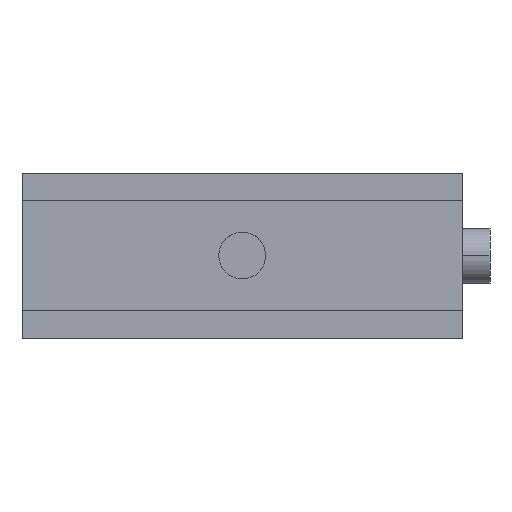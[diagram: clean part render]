
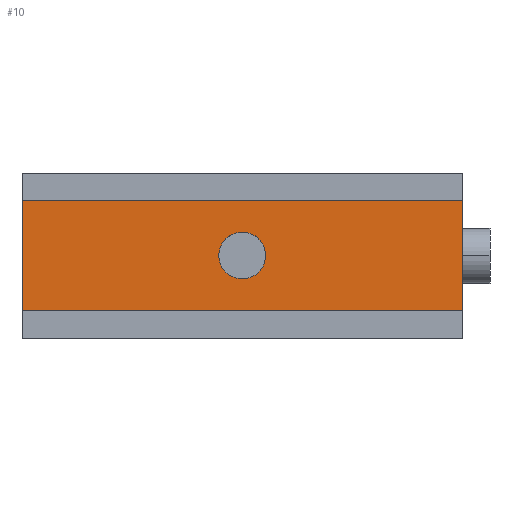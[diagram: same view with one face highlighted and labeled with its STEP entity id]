
A CAD part, top view. The second image highlights one B-rep face of the part: STEP entity #10.
In plain terms, the highlighted planar face has unit normal (0, 0, 1).
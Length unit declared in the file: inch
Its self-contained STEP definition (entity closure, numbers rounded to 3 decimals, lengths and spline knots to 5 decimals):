
#2 = ORIENTED_EDGE ( 'NONE', *, *, #189, .F. ) ;
#3 = EDGE_CURVE ( 'NONE', #186, #128, #361, .T. ) ;
#4 = EDGE_LOOP ( 'NONE', ( #144, #151, #18, #145 ) ) ;
#10 = ADVANCED_FACE ( 'NONE', ( #233, #232 ), #231, .F. ) ;
#14 = ORIENTED_EDGE ( 'NONE', *, *, #3, .F. ) ;
#17 = EDGE_CURVE ( 'NONE', #147, #206, #317, .T. ) ;
#18 = ORIENTED_EDGE ( 'NONE', *, *, #148, .F. ) ;
#128 = VERTEX_POINT ( 'NONE', #498 ) ;
#140 = EDGE_LOOP ( 'NONE', ( #14, #2 ) ) ;
#142 = EDGE_CURVE ( 'NONE', #162, #172, #611, .T. ) ;
#144 = ORIENTED_EDGE ( 'NONE', *, *, #149, .T. ) ;
#145 = ORIENTED_EDGE ( 'NONE', *, *, #17, .T. ) ;
#147 = VERTEX_POINT ( 'NONE', #637 ) ;
#148 = EDGE_CURVE ( 'NONE', #147, #162, #590, .T. ) ;
#149 = EDGE_CURVE ( 'NONE', #206, #172, #566, .T. ) ;
#151 = ORIENTED_EDGE ( 'NONE', *, *, #142, .F. ) ;
#162 = VERTEX_POINT ( 'NONE', #628 ) ;
#172 = VERTEX_POINT ( 'NONE', #657 ) ;
#186 = VERTEX_POINT ( 'NONE', #639 ) ;
#189 = EDGE_CURVE ( 'NONE', #128, #186, #607, .T. ) ;
#206 = VERTEX_POINT ( 'NONE', #763 ) ;
#230 = CARTESIAN_POINT ( 'NONE',  ( -1.4958, 0.5, 2.5 ) ) ;
#231 = PLANE ( 'NONE',  #320 ) ;
#232 = FACE_BOUND ( 'NONE', #140, .T. ) ;
#233 = FACE_OUTER_BOUND ( 'NONE', #4, .T. ) ;
#264 = CARTESIAN_POINT ( 'NONE',  ( 1., 0.25, 2.5 ) ) ;
#314 = DIRECTION ( 'NONE',  ( 0., -1., 0. ) ) ;
#315 = VECTOR ( 'NONE', #314, 39.37008 ) ;
#316 = CARTESIAN_POINT ( 'NONE',  ( 0., 0.5, 2.5 ) ) ;
#317 = LINE ( 'NONE', #316, #315 ) ;
#318 = DIRECTION ( 'NONE',  ( -1., 0., 0. ) ) ;
#319 = DIRECTION ( 'NONE',  ( 0., 0., -1. ) ) ;
#320 = AXIS2_PLACEMENT_3D ( 'NONE', #230, #319, #318 ) ;
#358 = DIRECTION ( 'NONE',  ( 1., 0., 0. ) ) ;
#359 = DIRECTION ( 'NONE',  ( 0., 0., 1. ) ) ;
#360 = AXIS2_PLACEMENT_3D ( 'NONE', #264, #359, #358 ) ;
#361 = CIRCLE ( 'NONE', #360, 0.1065 ) ;
#498 = CARTESIAN_POINT ( 'NONE',  ( 0.8935, 0.25, 2.5 ) ) ;
#566 = LINE ( 'NONE', #575, #572 ) ;
#570 = DIRECTION ( 'NONE',  ( 0., -1., 0. ) ) ;
#572 = VECTOR ( 'NONE', #638, 39.37008 ) ;
#575 = CARTESIAN_POINT ( 'NONE',  ( -1.4958, 0., 2.5 ) ) ;
#577 = DIRECTION ( 'NONE',  ( 1., 0., 0. ) ) ;
#580 = CARTESIAN_POINT ( 'NONE',  ( -1.4958, 0.5, 2.5 ) ) ;
#590 = LINE ( 'NONE', #580, #604 ) ;
#604 = VECTOR ( 'NONE', #577, 39.37008 ) ;
#605 = CARTESIAN_POINT ( 'NONE',  ( 1., 0.25, 2.5 ) ) ;
#606 = AXIS2_PLACEMENT_3D ( 'NONE', #605, #667, #666 ) ;
#607 = CIRCLE ( 'NONE', #606, 0.1065 ) ;
#610 = VECTOR ( 'NONE', #570, 39.37008 ) ;
#611 = LINE ( 'NONE', #626, #610 ) ;
#626 = CARTESIAN_POINT ( 'NONE',  ( 2., 0.5, 2.5 ) ) ;
#628 = CARTESIAN_POINT ( 'NONE',  ( 2., 0.5, 2.5 ) ) ;
#637 = CARTESIAN_POINT ( 'NONE',  ( 0., 0.5, 2.5 ) ) ;
#638 = DIRECTION ( 'NONE',  ( 1., 0., 0. ) ) ;
#639 = CARTESIAN_POINT ( 'NONE',  ( 1.1065, 0.25, 2.5 ) ) ;
#657 = CARTESIAN_POINT ( 'NONE',  ( 2., 0., 2.5 ) ) ;
#666 = DIRECTION ( 'NONE',  ( 1., 0., 0. ) ) ;
#667 = DIRECTION ( 'NONE',  ( 0., 0., 1. ) ) ;
#763 = CARTESIAN_POINT ( 'NONE',  ( 0., 0., 2.5 ) ) ;
